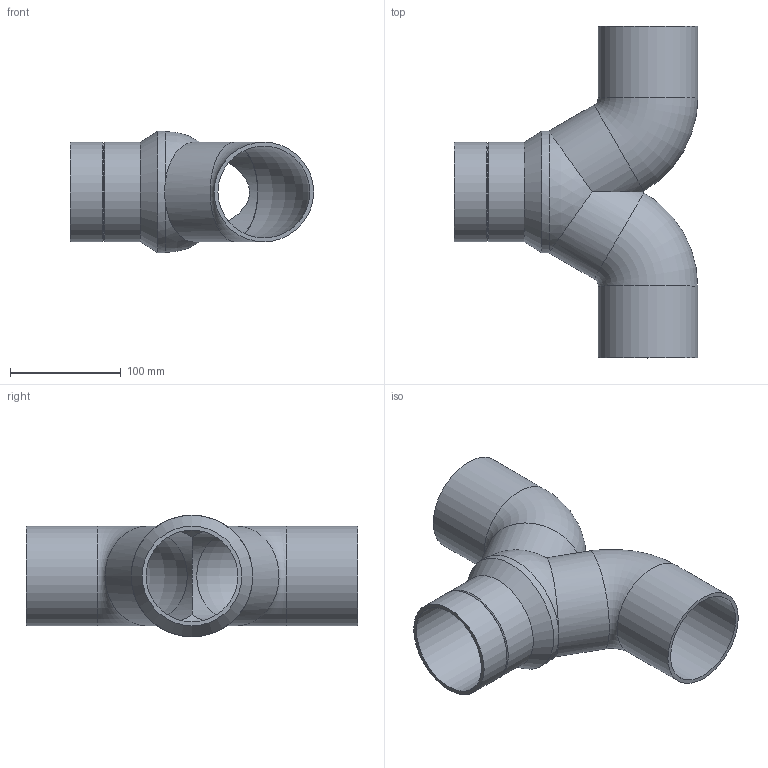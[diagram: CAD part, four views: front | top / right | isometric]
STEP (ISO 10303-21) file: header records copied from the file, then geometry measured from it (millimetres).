
FILE_DESCRIPTION(/* description */ (''),/* implementation_level */ '2;1');
FILE_NAME(/* name */ 'Z:\Geberit\Export\NewStep\308480.stp',/* time_stamp */ '2014-04-01T20:06:05+02:00',/* author */ ('nelson'),/* organization */ (''),/* preprocessor_version */ 'ST-DEVELOPER v15.2',/* originating_system */ 'Autodesk Inventor 2014',/* authorisation */ '');
FILE_SCHEMA (('AUTOMOTIVE_DESIGN { 1 0 10303 214 3 1 1 }'));
Length unit declared in the file: millimetre
Products named in the file (1): 308480
Bounding box: 220 x 300.09 x 110 mm (x, y, z)
Volume: 418244.5 mm3; surface area: 232332.4 mm2
Topology: 1 solids, 1 shells, 30 faces, 68 edges, 41 vertices
Faces by surface type: cylinder 13, plane 5, cone 4, torus 4, sphere 4
Full cylindrical faces by diameter (mm): 82 x2, 83 x3, 90 x6, 101.4 x1, 110 x1
Entity records: 863 total; most frequent: CARTESIAN_POINT 297, DIRECTION 120, ORIENTED_EDGE 78, AXIS2_PLACEMENT_3D 60, EDGE_LOOP 56, EDGE_CURVE 39, VERTEX_POINT 33, ADVANCED_FACE 30
